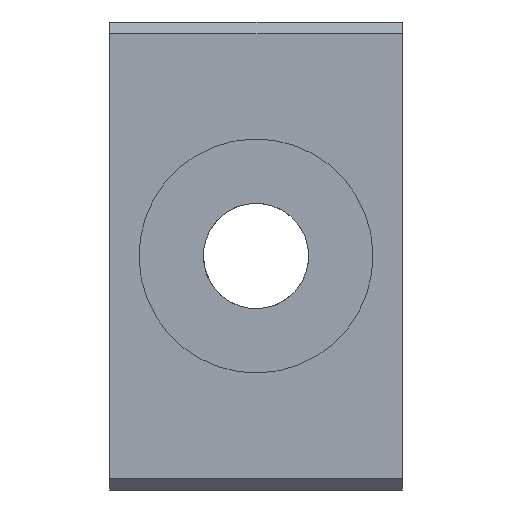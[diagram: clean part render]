
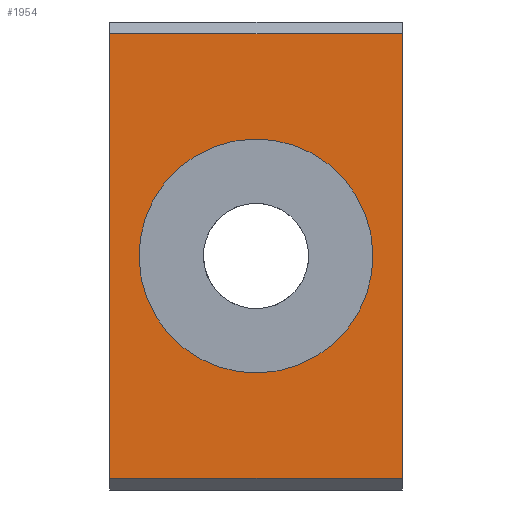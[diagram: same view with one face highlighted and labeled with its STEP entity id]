
A CAD part, left-side view. The second image highlights one B-rep face of the part: STEP entity #1954.
In plain terms, the highlighted planar face has unit normal (-1, 0, 0).
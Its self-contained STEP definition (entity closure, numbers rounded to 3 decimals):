
#1041 = EDGE_CURVE('',#1042,#1044,#1046,.T.);
#1042 = VERTEX_POINT('',#1043);
#1043 = CARTESIAN_POINT('',(-62.5,25.,-19.));
#1044 = VERTEX_POINT('',#1045);
#1045 = CARTESIAN_POINT('',(-62.5,25.,19.));
#1046 = LINE('',#1047,#1048);
#1047 = CARTESIAN_POINT('',(-62.5,25.,0.));
#1048 = VECTOR('',#1049,1.);
#1049 = DIRECTION('',(0.,0.,1.));
#1138 = VERTEX_POINT('',#1139);
#1139 = CARTESIAN_POINT('',(-62.5,0.,-19.));
#1172 = VERTEX_POINT('',#1173);
#1173 = CARTESIAN_POINT('',(-62.5,0.,19.));
#1179 = EDGE_CURVE('',#1138,#1172,#1180,.T.);
#1180 = LINE('',#1181,#1182);
#1181 = CARTESIAN_POINT('',(-62.5,0.,0.));
#1182 = VECTOR('',#1183,1.);
#1183 = DIRECTION('',(0.,0.,1.));
#1279 = EDGE_CURVE('',#1044,#1172,#1280,.T.);
#1280 = LINE('',#1281,#1282);
#1281 = CARTESIAN_POINT('',(-62.5,12.5,19.));
#1282 = VECTOR('',#1283,1.);
#1283 = DIRECTION('',(0.,-1.,0.));
#1954 = ADVANCED_FACE('',(#1955,#1966),#1986,.F.);
#1955 = FACE_BOUND('',#1956,.T.);
#1956 = EDGE_LOOP('',(#1957,#1958,#1959,#1965));
#1957 = ORIENTED_EDGE('',*,*,#1279,.F.);
#1958 = ORIENTED_EDGE('',*,*,#1041,.F.);
#1959 = ORIENTED_EDGE('',*,*,#1960,.T.);
#1960 = EDGE_CURVE('',#1042,#1138,#1961,.T.);
#1961 = LINE('',#1962,#1963);
#1962 = CARTESIAN_POINT('',(-62.5,12.5,-19.));
#1963 = VECTOR('',#1964,1.);
#1964 = DIRECTION('',(0.,-1.,0.));
#1965 = ORIENTED_EDGE('',*,*,#1179,.T.);
#1966 = FACE_BOUND('',#1967,.T.);
#1967 = EDGE_LOOP('',(#1968,#1979));
#1968 = ORIENTED_EDGE('',*,*,#1969,.T.);
#1969 = EDGE_CURVE('',#1970,#1972,#1974,.T.);
#1970 = VERTEX_POINT('',#1971);
#1971 = CARTESIAN_POINT('',(-62.5,21.276,4.794));
#1972 = VERTEX_POINT('',#1973);
#1973 = CARTESIAN_POINT('',(-62.5,3.724,-4.794));
#1974 = CIRCLE('',#1975,10.);
#1975 = AXIS2_PLACEMENT_3D('',#1976,#1977,#1978);
#1976 = CARTESIAN_POINT('',(-62.5,12.5,0.));
#1977 = DIRECTION('',(1.,-0.,0.));
#1978 = DIRECTION('',(0.,0.,-1.));
#1979 = ORIENTED_EDGE('',*,*,#1980,.T.);
#1980 = EDGE_CURVE('',#1972,#1970,#1981,.T.);
#1981 = CIRCLE('',#1982,10.);
#1982 = AXIS2_PLACEMENT_3D('',#1983,#1984,#1985);
#1983 = CARTESIAN_POINT('',(-62.5,12.5,0.));
#1984 = DIRECTION('',(1.,-0.,0.));
#1985 = DIRECTION('',(0.,0.,-1.));
#1986 = PLANE('',#1987);
#1987 = AXIS2_PLACEMENT_3D('',#1988,#1989,#1990);
#1988 = CARTESIAN_POINT('',(-62.5,25.,-19.));
#1989 = DIRECTION('',(1.,0.,0.));
#1990 = DIRECTION('',(0.,0.,1.));
